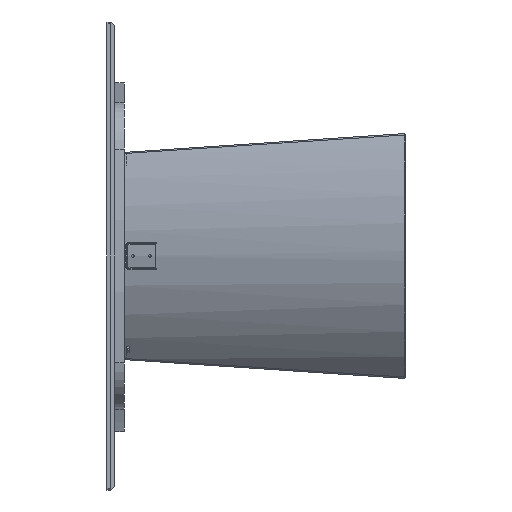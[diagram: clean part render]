
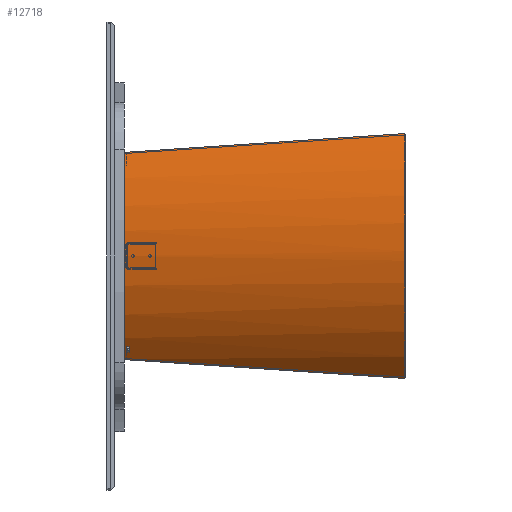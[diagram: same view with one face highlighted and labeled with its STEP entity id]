
A CAD part, left-side view. The second image highlights one B-rep face of the part: STEP entity #12718.
In plain terms, the highlighted cylindrical face has radius 455 mm (diameter 910 mm), a partial arc.
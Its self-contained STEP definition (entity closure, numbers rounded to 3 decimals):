
#35 = CARTESIAN_POINT ( 'NONE',  ( -265.753, 720., -274.535 ) ) ;
#137 = CARTESIAN_POINT ( 'NONE',  ( 298.867, 241.995, -177.363 ) ) ;
#284 = EDGE_CURVE ( 'NONE', #4949, #10229, #2231, .T. ) ;
#327 = CIRCLE ( 'NONE', #2195, 455. ) ;
#595 =( BOUNDED_CURVE ( )  B_SPLINE_CURVE ( 3, ( #5287, #137, #8121, #12125 ),
 .UNSPECIFIED., .F., .T. ) 
 B_SPLINE_CURVE_WITH_KNOTS ( ( 4, 4 ),
 ( 1.582, 1.719 ),
 .UNSPECIFIED. ) 
 CURVE ( )  GEOMETRIC_REPRESENTATION_ITEM ( )  RATIONAL_B_SPLINE_CURVE ( ( 1., 0.998, 0.998, 1. ) ) 
 REPRESENTATION_ITEM ( '' )  );
#972 = CARTESIAN_POINT ( 'NONE',  ( 12.104, 1.251, -0.325 ) ) ;
#1119 = CARTESIAN_POINT ( 'NONE',  ( 0., -112.631, -440.677 ) ) ;
#1295 = DIRECTION ( 'NONE',  ( 0., -0.968, 0.25 ) ) ;
#1589 = CARTESIAN_POINT ( 'NONE',  ( 0., 720., -186.04 ) ) ;
#1599 = CARTESIAN_POINT ( 'NONE',  ( -126.14, 1.243, -3.458 ) ) ;
#1995 = CARTESIAN_POINT ( 'NONE',  ( -265.753, 720., -274.535 ) ) ;
#2195 = AXIS2_PLACEMENT_3D ( 'NONE', #1119, #10153, #6244 ) ;
#2231 =( BOUNDED_CURVE ( )  B_SPLINE_CURVE ( 3, ( #6975, #5807, #9904, #1995 ),
 .UNSPECIFIED., .F., .T. ) 
 B_SPLINE_CURVE_WITH_KNOTS ( ( 4, 4 ),
 ( 1.582, 1.719 ),
 .UNSPECIFIED. ) 
 CURVE ( )  GEOMETRIC_REPRESENTATION_ITEM ( )  RATIONAL_B_SPLINE_CURVE ( ( 1., 0.998, 0.998, 1. ) ) 
 REPRESENTATION_ITEM ( '' )  );
#2358 = ORIENTED_EDGE ( 'NONE', *, *, #9026, .T. ) ;
#2377 = ORIENTED_EDGE ( 'NONE', *, *, #284, .F. ) ;
#2439 = EDGE_LOOP ( 'NONE', ( #6475, #10677, #2377, #2715, #6351, #2358, #4539 ) ) ;
#2715 = ORIENTED_EDGE ( 'NONE', *, *, #11509, .T. ) ;
#2934 = EDGE_CURVE ( 'NONE', #4143, #5871, #3742, .T. ) ;
#3594 = CARTESIAN_POINT ( 'NONE',  ( 187.694, 720., -216.518 ) ) ;
#3742 =( BOUNDED_CURVE ( )  B_SPLINE_CURVE ( 3, ( #9506, #3594, #12483, #1589 ),
 .UNSPECIFIED., .F., .T. ) 
 B_SPLINE_CURVE_WITH_KNOTS ( ( 4, 4 ),
 ( 5.659, 6.283 ),
 .UNSPECIFIED. ) 
 CURVE ( )  GEOMETRIC_REPRESENTATION_ITEM ( )  RATIONAL_B_SPLINE_CURVE ( ( 1., 0.968, 0.968, 1. ) ) 
 REPRESENTATION_ITEM ( '' )  );
#4143 = VERTEX_POINT ( 'NONE', #7886 ) ;
#4539 = ORIENTED_EDGE ( 'NONE', *, *, #12720, .T. ) ;
#4727 = CARTESIAN_POINT ( 'NONE',  ( -314.022, 0.906, -129.942 ) ) ;
#4949 = VERTEX_POINT ( 'NONE', #11920 ) ;
#5287 = CARTESIAN_POINT ( 'NONE',  ( 314.022, 0.906, -129.942 ) ) ;
#5355 = DIRECTION ( 'NONE',  ( 0., -0.25, -0.968 ) ) ;
#5473 = EDGE_CURVE ( 'NONE', #6323, #7165, #327, .T. ) ;
#5807 = CARTESIAN_POINT ( 'NONE',  ( -298.867, 241.995, -177.363 ) ) ;
#5871 = VERTEX_POINT ( 'NONE', #8794 ) ;
#6244 = DIRECTION ( 'NONE',  ( -1., 0., 0. ) ) ;
#6323 = VERTEX_POINT ( 'NONE', #972 ) ;
#6351 = ORIENTED_EDGE ( 'NONE', *, *, #5473, .F. ) ;
#6475 = ORIENTED_EDGE ( 'NONE', *, *, #2934, .T. ) ;
#6493 = CARTESIAN_POINT ( 'NONE',  ( 126.14, 1.243, -3.458 ) ) ;
#6975 = CARTESIAN_POINT ( 'NONE',  ( -314.022, 0.906, -129.942 ) ) ;
#7165 = VERTEX_POINT ( 'NONE', #7805 ) ;
#7280 = CARTESIAN_POINT ( 'NONE',  ( -187.694, 720., -216.518 ) ) ;
#7623 = CARTESIAN_POINT ( 'NONE',  ( -12.104, 1.251, -0.325 ) ) ;
#7805 = CARTESIAN_POINT ( 'NONE',  ( -12.104, 1.251, -0.325 ) ) ;
#7886 = CARTESIAN_POINT ( 'NONE',  ( 265.753, 720., -274.535 ) ) ;
#8055 = FACE_OUTER_BOUND ( 'NONE', #2439, .T. ) ;
#8121 = CARTESIAN_POINT ( 'NONE',  ( 282.752, 482.074, -225.637 ) ) ;
#8185 = CARTESIAN_POINT ( 'NONE',  ( 0., 690.447, -648.367 ) ) ;
#8392 = CARTESIAN_POINT ( 'NONE',  ( 0., 720., -186.04 ) ) ;
#8517 = CARTESIAN_POINT ( 'NONE',  ( 231.469, 1.123, -48.677 ) ) ;
#8794 = CARTESIAN_POINT ( 'NONE',  ( 0., 720., -186.04 ) ) ;
#9026 = EDGE_CURVE ( 'NONE', #6323, #12730, #9533, .T. ) ;
#9115 = AXIS2_PLACEMENT_3D ( 'NONE', #8185, #1295, #5355 ) ;
#9292 = CARTESIAN_POINT ( 'NONE',  ( 12.104, 1.251, -0.325 ) ) ;
#9367 = CARTESIAN_POINT ( 'NONE',  ( -96.167, 720., -186.04 ) ) ;
#9506 = CARTESIAN_POINT ( 'NONE',  ( 265.753, 720., -274.535 ) ) ;
#9533 =( BOUNDED_CURVE ( )  B_SPLINE_CURVE ( 3, ( #9292, #6493, #8517, #12460 ),
 .UNSPECIFIED., .F., .T. ) 
 B_SPLINE_CURVE_WITH_KNOTS ( ( 4, 4 ),
 ( 0.027, 0.762 ),
 .UNSPECIFIED. ) 
 CURVE ( )  GEOMETRIC_REPRESENTATION_ITEM ( )  RATIONAL_B_SPLINE_CURVE ( ( 1., 0.955, 0.955, 1. ) ) 
 REPRESENTATION_ITEM ( '' )  );
#9904 = CARTESIAN_POINT ( 'NONE',  ( -282.752, 482.074, -225.637 ) ) ;
#10153 = DIRECTION ( 'NONE',  ( 0., -0.968, 0.25 ) ) ;
#10189 = CYLINDRICAL_SURFACE ( 'NONE', #9115, 455. ) ;
#10229 = VERTEX_POINT ( 'NONE', #35 ) ;
#10312 = CARTESIAN_POINT ( 'NONE',  ( 314.022, 0.906, -129.942 ) ) ;
#10433 =( BOUNDED_CURVE ( )  B_SPLINE_CURVE ( 3, ( #4727, #10546, #1599, #7623 ),
 .UNSPECIFIED., .F., .T. ) 
 B_SPLINE_CURVE_WITH_KNOTS ( ( 4, 4 ),
 ( 5.521, 6.257 ),
 .UNSPECIFIED. ) 
 CURVE ( )  GEOMETRIC_REPRESENTATION_ITEM ( )  RATIONAL_B_SPLINE_CURVE ( ( 1., 0.955, 0.955, 1. ) ) 
 REPRESENTATION_ITEM ( '' )  );
#10546 = CARTESIAN_POINT ( 'NONE',  ( -231.469, 1.123, -48.677 ) ) ;
#10677 = ORIENTED_EDGE ( 'NONE', *, *, #12318, .T. ) ;
#11421 =( BOUNDED_CURVE ( )  B_SPLINE_CURVE ( 3, ( #8392, #9367, #7280, #12338 ),
 .UNSPECIFIED., .F., .T. ) 
 B_SPLINE_CURVE_WITH_KNOTS ( ( 4, 4 ),
 ( 0., 0.624 ),
 .UNSPECIFIED. ) 
 CURVE ( )  GEOMETRIC_REPRESENTATION_ITEM ( )  RATIONAL_B_SPLINE_CURVE ( ( 1., 0.968, 0.968, 1. ) ) 
 REPRESENTATION_ITEM ( '' )  );
#11509 = EDGE_CURVE ( 'NONE', #4949, #7165, #10433, .T. ) ;
#11920 = CARTESIAN_POINT ( 'NONE',  ( -314.022, 0.906, -129.942 ) ) ;
#12125 = CARTESIAN_POINT ( 'NONE',  ( 265.753, 720., -274.535 ) ) ;
#12318 = EDGE_CURVE ( 'NONE', #5871, #10229, #11421, .T. ) ;
#12338 = CARTESIAN_POINT ( 'NONE',  ( -265.753, 720., -274.535 ) ) ;
#12460 = CARTESIAN_POINT ( 'NONE',  ( 314.022, 0.906, -129.942 ) ) ;
#12483 = CARTESIAN_POINT ( 'NONE',  ( 96.167, 720., -186.04 ) ) ;
#12718 = ADVANCED_FACE ( 'NONE', ( #8055 ), #10189, .T. ) ;
#12720 = EDGE_CURVE ( 'NONE', #12730, #4143, #595, .T. ) ;
#12730 = VERTEX_POINT ( 'NONE', #10312 ) ;
